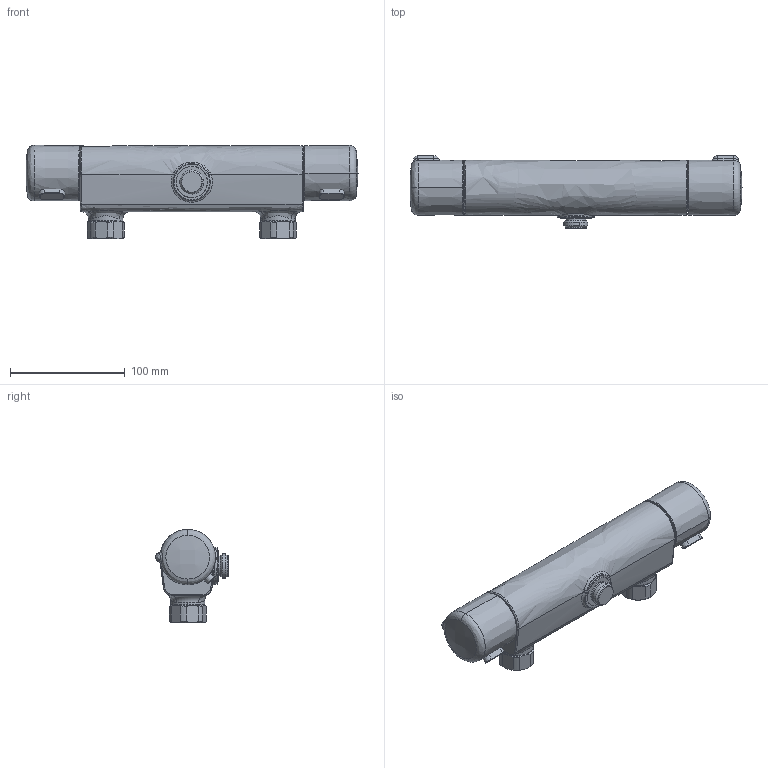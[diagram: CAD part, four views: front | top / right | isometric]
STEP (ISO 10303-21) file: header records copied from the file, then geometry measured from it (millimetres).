
FILE_DESCRIPTION (( 'STEP AP203' ), '1' );
FILE_NAME ('7460C(2022).STEP', '2022-09-05T09:48:59', ( '' ), ( '' ), 'SwSTEP 2.0', 'SolidWorks 2016', '' );
FILE_SCHEMA (( 'CONFIG_CONTROL_DESIGN' ));
Length unit declared in the file: millimetre
Products named in the file (1): 7460C(2022)
Bounding box: 289.19 x 63.4 x 81.17 mm (x, y, z)
Volume: 661955.3 mm3; surface area: 65649.6 mm2
Topology: 1 solids, 1 shells, 357 faces, 808 edges, 483 vertices
Faces by surface type: cylinder 83, plane 80, cone 76, torus 60, bspline 52, sphere 6
Entity records: 14338 total; most frequent: CARTESIAN_POINT 6567, DIRECTION 1631, ORIENTED_EDGE 1612, EDGE_CURVE 806, AXIS2_PLACEMENT_3D 721, VERTEX_POINT 483, CIRCLE 415, EDGE_LOOP 389
